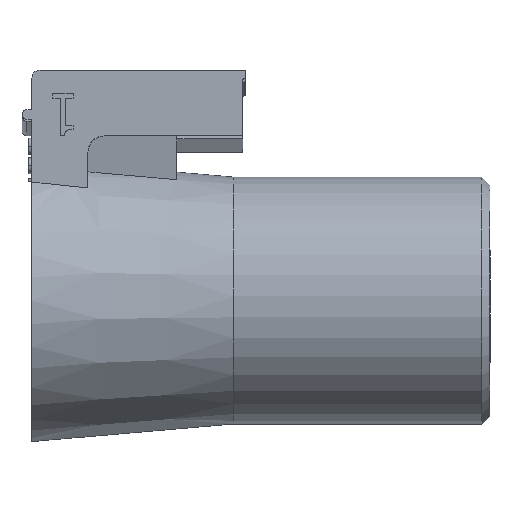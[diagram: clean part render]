
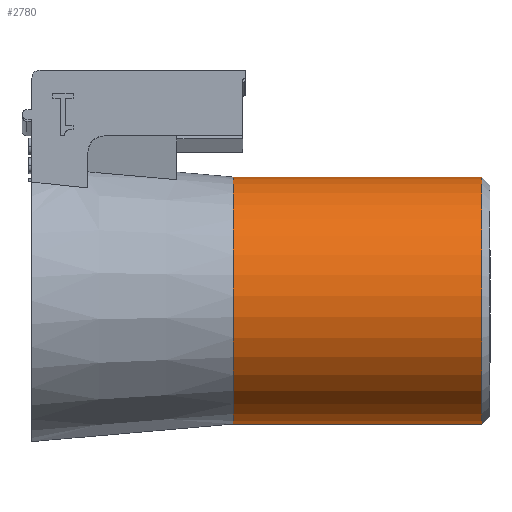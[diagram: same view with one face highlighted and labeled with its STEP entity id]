
A CAD part, front view. The second image highlights one B-rep face of the part: STEP entity #2780.
In plain terms, the highlighted cylindrical face has radius 7.5 mm (diameter 15 mm), a partial arc.
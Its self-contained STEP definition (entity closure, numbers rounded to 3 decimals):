
#49=CYLINDRICAL_SURFACE('',#2952,7.5);
#97=CIRCLE('',#2935,7.5);
#101=CIRCLE('',#2951,7.5);
#464=FACE_OUTER_BOUND('',#623,.T.);
#623=EDGE_LOOP('',(#2559,#2560,#2561,#2562));
#792=LINE('',#4755,#1031);
#830=LINE('',#4852,#1069);
#1031=VECTOR('',#3271,10.);
#1069=VECTOR('',#3341,10.);
#1307=VERTEX_POINT('',#4752);
#1308=VERTEX_POINT('',#4754);
#1343=VERTEX_POINT('',#4845);
#1345=VERTEX_POINT('',#4851);
#1659=EDGE_CURVE('',#1308,#1307,#792,.T.);
#1706=EDGE_CURVE('',#1345,#1343,#830,.T.);
#1748=EDGE_CURVE('',#1345,#1307,#97,.T.);
#1764=EDGE_CURVE('',#1308,#1343,#101,.T.);
#2559=ORIENTED_EDGE('',*,*,#1706,.T.);
#2560=ORIENTED_EDGE('',*,*,#1764,.F.);
#2561=ORIENTED_EDGE('',*,*,#1659,.T.);
#2562=ORIENTED_EDGE('',*,*,#1748,.F.);
#2780=ADVANCED_FACE('',(#464),#49,.T.);
#2935=AXIS2_PLACEMENT_3D('',#4940,#3452,#3453);
#2951=AXIS2_PLACEMENT_3D('',#4974,#3494,#3495);
#2952=AXIS2_PLACEMENT_3D('',#4975,#3496,#3497);
#3271=DIRECTION('',(-1.,0.,0.));
#3341=DIRECTION('',(1.,0.,0.));
#3452=DIRECTION('center_axis',(-1.,0.,0.));
#3453=DIRECTION('ref_axis',(0.,-1.,0.));
#3494=DIRECTION('center_axis',(1.,0.,0.));
#3495=DIRECTION('ref_axis',(0.,1.,0.));
#3496=DIRECTION('center_axis',(-1.,0.,0.));
#3497=DIRECTION('ref_axis',(0.,-1.,0.));
#4752=CARTESIAN_POINT('',(11.43,0.,7.5));
#4754=CARTESIAN_POINT('',(26.5,0.,7.5));
#4755=CARTESIAN_POINT('',(19.215,0.,7.5));
#4845=CARTESIAN_POINT('',(26.5,-0.532,-7.481));
#4851=CARTESIAN_POINT('',(11.43,-0.532,-7.481));
#4852=CARTESIAN_POINT('',(19.215,-0.532,-7.481));
#4940=CARTESIAN_POINT('Origin',(11.43,0.,
0.));
#4974=CARTESIAN_POINT('Origin',(26.5,0.,
0.));
#4975=CARTESIAN_POINT('Origin',(19.215,0.,
0.));
